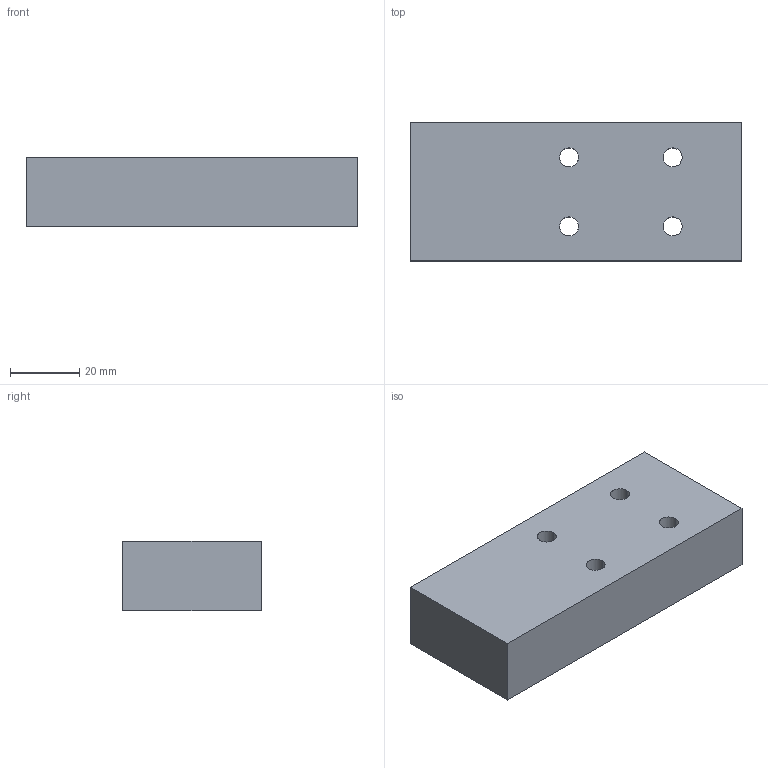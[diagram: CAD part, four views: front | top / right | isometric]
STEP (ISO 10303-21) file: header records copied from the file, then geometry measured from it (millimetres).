
FILE_DESCRIPTION(/* description */ (''),/* implementation_level */ '2;1');
FILE_NAME(/* name */ '5.y-cart#5.1#HFS5-2040-96-Z5-YA46-YB76',/* time_stamp */ '2014-12-01T20:13:13+01:00',/* author */ (''),/* organization */ (''),/* preprocessor_version */ 'ST-DEVELOPER v14',/* originating_system */ '',/* authorisation */ '');
FILE_SCHEMA (('AUTOMOTIVE_DESIGN'));
Length unit declared in the file: millimetre
Products named in the file (1): Document
Bounding box: 96 x 40 x 20 mm (x, y, z)
Volume: 73767.8 mm3; surface area: 14614.5 mm2
Topology: 1 solids, 1 shells, 26 faces, 60 edges, 40 vertices
Faces by surface type: bspline 16, plane 10
Entity records: 2086 total; most frequent: CARTESIAN_POINT 1276, B_SPLINE_CURVE_WITH_KNOTS 124, ORIENTED_EDGE 120, PCURVE 120, DEFINITIONAL_REPRESENTATION 120, SURFACE_CURVE 60, EDGE_CURVE 60, VERTEX_POINT 40
